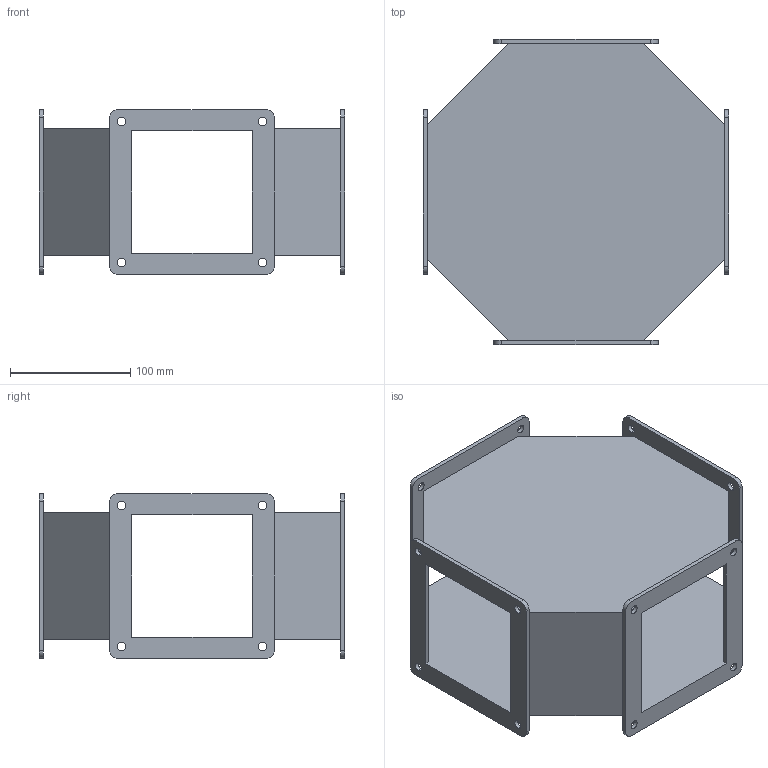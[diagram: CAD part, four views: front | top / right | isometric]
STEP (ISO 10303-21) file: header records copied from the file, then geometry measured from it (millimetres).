
FILE_DESCRIPTION((''),'1');
FILE_NAME('2','2001-04-18T',('jlue'),(''),'PRO/ENGINEER BY PARAMETRIC TECHNOLOGY CORPORATION, 9846','PRO/ENGINEER BY PARAMETRIC TECHNOLOGY CORPORATION, 9846','');
FILE_SCHEMA(('CONFIG_CONTROL_DESIGN'));
Length unit declared in the file: inch
Products named in the file (1): 2
Bounding box: 254 x 254 x 136.65 mm (x, y, z)
Surface area: 363724.6 mm2 (no closed solid volume)
Topology: 0 solids, 0 shells, 100 faces, 592 edges, 608 vertices
Faces by surface type: plane 52, cylinder 48
Entity records: 2978 total; most frequent: DIRECTION 600, COMPOSITE_CURVE_SEGMENT 576, CARTESIAN_POINT 404, TRIMMED_CURVE 304, VECTOR 208, LINE 208, AXIS2_PLACEMENT_3D 196, CURVE_BOUNDED_SURFACE 100
